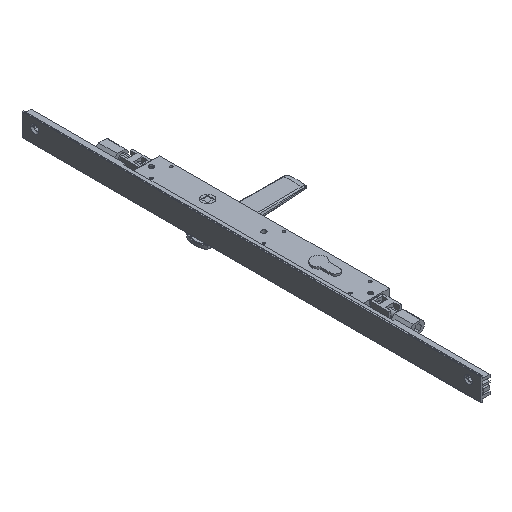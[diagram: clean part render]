
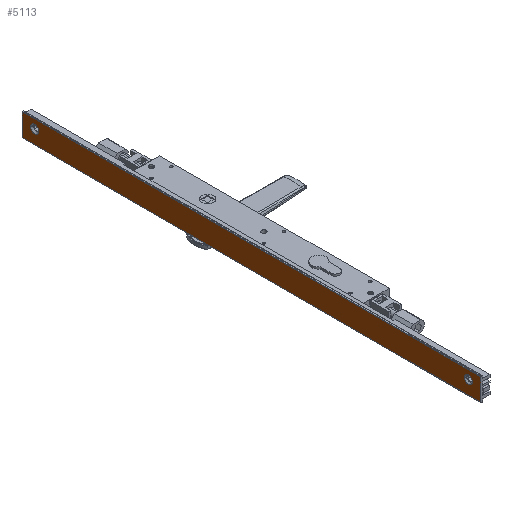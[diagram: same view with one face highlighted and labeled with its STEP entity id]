
A CAD part, isometric view. The second image highlights one B-rep face of the part: STEP entity #5113.
In plain terms, the highlighted planar face has unit normal (-1, 0, 0) as drawn and (0, 1, 0) by its records, which use the part's own axes.
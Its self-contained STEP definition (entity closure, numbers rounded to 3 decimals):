
#363 = ORIENTED_EDGE ( 'NONE', *, *, #2143, .F. ) ;
#368 = CARTESIAN_POINT ( 'NONE',  ( 20.8, 12.4, 0. ) ) ;
#562 = ORIENTED_EDGE ( 'NONE', *, *, #17478, .F. ) ;
#663 = AXIS2_PLACEMENT_3D ( 'NONE', #32801, #1671, #30236 ) ;
#1649 = EDGE_CURVE ( 'NONE', #12995, #14393, #1852, .T. ) ;
#1671 = DIRECTION ( 'NONE',  ( 0., 1., 0. ) ) ;
#1852 = CIRCLE ( 'NONE', #30443, 4.89 ) ;
#2143 = EDGE_CURVE ( 'NONE', #20132, #15619, #6178, .T. ) ;
#2675 = EDGE_LOOP ( 'NONE', ( #5611, #7670 ) ) ;
#2956 = VECTOR ( 'NONE', #30901, 1000. ) ;
#3596 = CARTESIAN_POINT ( 'NONE',  ( 11.8, 12.4, 15. ) ) ;
#3743 = CARTESIAN_POINT ( 'NONE',  ( 11.8, 12.4, 533.889 ) ) ;
#4163 = FACE_BOUND ( 'NONE', #10676, .T. ) ;
#4626 = DIRECTION ( 'NONE',  ( 0., 1., 0. ) ) ;
#5113 = ADVANCED_FACE ( 'NONE', ( #27327, #4163, #14471 ), #32583, .F. ) ;
#5515 = CIRCLE ( 'NONE', #663, 4.889 ) ;
#5611 = ORIENTED_EDGE ( 'NONE', *, *, #8004, .F. ) ;
#6178 = CIRCLE ( 'NONE', #12125, 4.889 ) ;
#7670 = ORIENTED_EDGE ( 'NONE', *, *, #1649, .F. ) ;
#7757 = VECTOR ( 'NONE', #26142, 1000. ) ;
#8004 = EDGE_CURVE ( 'NONE', #14393, #12995, #31763, .T. ) ;
#8305 = DIRECTION ( 'NONE',  ( 0., 1., 0. ) ) ;
#8877 = DIRECTION ( 'NONE',  ( 1., 0., 0. ) ) ;
#10676 = EDGE_LOOP ( 'NONE', ( #363, #23050 ) ) ;
#12125 = AXIS2_PLACEMENT_3D ( 'NONE', #30917, #30592, #25857 ) ;
#12995 = VERTEX_POINT ( 'NONE', #30200 ) ;
#14066 = DIRECTION ( 'NONE',  ( 0., 0., 1. ) ) ;
#14393 = VERTEX_POINT ( 'NONE', #30831 ) ;
#14471 = FACE_OUTER_BOUND ( 'NONE', #27080, .T. ) ;
#15335 = LINE ( 'NONE', #28678, #7757 ) ;
#15586 = CARTESIAN_POINT ( 'NONE',  ( -4.4, 12.4, 544. ) ) ;
#15619 = VERTEX_POINT ( 'NONE', #18350 ) ;
#15863 = CARTESIAN_POINT ( 'NONE',  ( 22., 12.4, 544. ) ) ;
#15901 = DIRECTION ( 'NONE',  ( -1., 0., 0. ) ) ;
#16631 = VERTEX_POINT ( 'NONE', #33253 ) ;
#16935 = VERTEX_POINT ( 'NONE', #24866 ) ;
#17478 = EDGE_CURVE ( 'NONE', #19425, #30456, #20608, .T. ) ;
#17776 = AXIS2_PLACEMENT_3D ( 'NONE', #22381, #4626, #20191 ) ;
#18350 = CARTESIAN_POINT ( 'NONE',  ( 11.8, 12.4, 524.111 ) ) ;
#19157 = ORIENTED_EDGE ( 'NONE', *, *, #31423, .T. ) ;
#19425 = VERTEX_POINT ( 'NONE', #15863 ) ;
#19910 = DIRECTION ( 'NONE',  ( 0., -1., 0. ) ) ;
#20132 = VERTEX_POINT ( 'NONE', #3743 ) ;
#20191 = DIRECTION ( 'NONE',  ( 0., 0., 1. ) ) ;
#20561 = VECTOR ( 'NONE', #28883, 1000. ) ;
#20608 = LINE ( 'NONE', #23265, #2956 ) ;
#20619 = EDGE_CURVE ( 'NONE', #16631, #30456, #23977, .T. ) ;
#20753 = EDGE_CURVE ( 'NONE', #15619, #20132, #5515, .T. ) ;
#21372 = VECTOR ( 'NONE', #15901, 1000. ) ;
#22381 = CARTESIAN_POINT ( 'NONE',  ( 11.8, 12.4, 15. ) ) ;
#22425 = CARTESIAN_POINT ( 'NONE',  ( 20.8, 12.4, 544. ) ) ;
#23050 = ORIENTED_EDGE ( 'NONE', *, *, #20753, .F. ) ;
#23265 = CARTESIAN_POINT ( 'NONE',  ( 20.8, 12.4, 544. ) ) ;
#23977 = LINE ( 'NONE', #31435, #20561 ) ;
#24866 = CARTESIAN_POINT ( 'NONE',  ( 22., 12.4, 0. ) ) ;
#25857 = DIRECTION ( 'NONE',  ( 0., 0., 1. ) ) ;
#26142 = DIRECTION ( 'NONE',  ( 0., 0., 1. ) ) ;
#27080 = EDGE_LOOP ( 'NONE', ( #19157, #31176, #562, #33370 ) ) ;
#27327 = FACE_BOUND ( 'NONE', #2675, .T. ) ;
#28678 = CARTESIAN_POINT ( 'NONE',  ( 22., 12.4, 0. ) ) ;
#28755 = LINE ( 'NONE', #368, #21372 ) ;
#28883 = DIRECTION ( 'NONE',  ( 0., 0., 1. ) ) ;
#29082 = EDGE_CURVE ( 'NONE', #16935, #19425, #15335, .T. ) ;
#30200 = CARTESIAN_POINT ( 'NONE',  ( 11.8, 12.4, 10.111 ) ) ;
#30236 = DIRECTION ( 'NONE',  ( 0., 0., 1. ) ) ;
#30443 = AXIS2_PLACEMENT_3D ( 'NONE', #3596, #8305, #14066 ) ;
#30456 = VERTEX_POINT ( 'NONE', #15586 ) ;
#30592 = DIRECTION ( 'NONE',  ( 0., 1., 0. ) ) ;
#30831 = CARTESIAN_POINT ( 'NONE',  ( 11.8, 12.4, 19.89 ) ) ;
#30901 = DIRECTION ( 'NONE',  ( -1., 0., 0. ) ) ;
#30917 = CARTESIAN_POINT ( 'NONE',  ( 11.8, 12.4, 529. ) ) ;
#31176 = ORIENTED_EDGE ( 'NONE', *, *, #20619, .T. ) ;
#31423 = EDGE_CURVE ( 'NONE', #16935, #16631, #28755, .T. ) ;
#31435 = CARTESIAN_POINT ( 'NONE',  ( -4.4, 12.4, 0. ) ) ;
#31763 = CIRCLE ( 'NONE', #17776, 4.89 ) ;
#32583 = PLANE ( 'NONE',  #32599 ) ;
#32599 = AXIS2_PLACEMENT_3D ( 'NONE', #22425, #19910, #8877 ) ;
#32801 = CARTESIAN_POINT ( 'NONE',  ( 11.8, 12.4, 529. ) ) ;
#33253 = CARTESIAN_POINT ( 'NONE',  ( -4.4, 12.4, 0. ) ) ;
#33370 = ORIENTED_EDGE ( 'NONE', *, *, #29082, .F. ) ;
